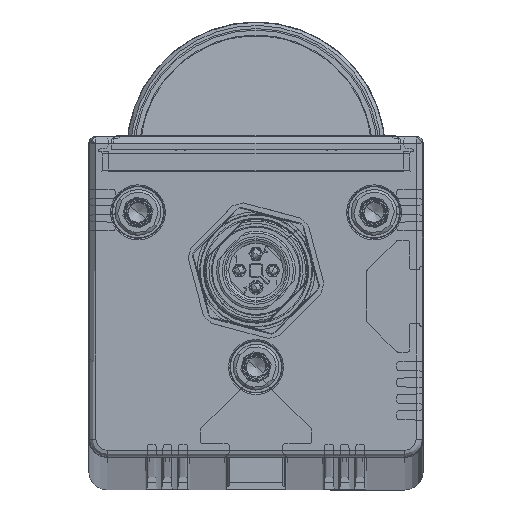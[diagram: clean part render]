
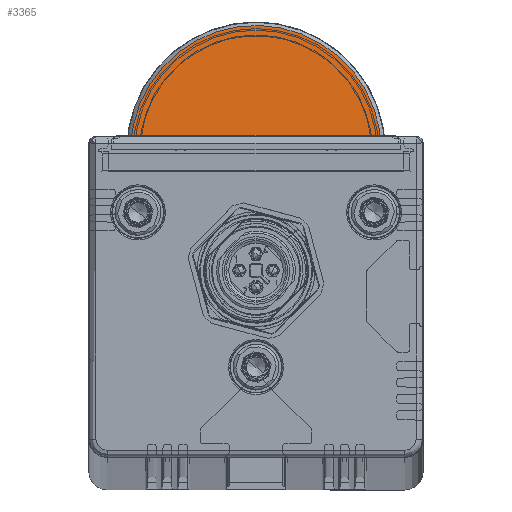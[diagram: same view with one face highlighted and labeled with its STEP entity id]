
A CAD part, top view. The second image highlights one B-rep face of the part: STEP entity #3365.
In plain terms, the highlighted planar face has unit normal (0, 0.087, 0.996).
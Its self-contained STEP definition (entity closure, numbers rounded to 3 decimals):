
#397 = CARTESIAN_POINT ( 'NONE',  ( 2.517, 20.743, -10.17 ) ) ;
#967 = CARTESIAN_POINT ( 'NONE',  ( -19.005, 4.075, -8.712 ) ) ;
#1240 = ORIENTED_EDGE ( 'NONE', *, *, #6237, .T. ) ;
#2686 = B_SPLINE_CURVE_WITH_KNOTS ( 'NONE', 3,
 ( #4053, #5088, #12013, #9141, #17353, #9247, #16087, #18932, #17893, #16198, #5849, #10295, #17243, #8601, #3936, #397, #21628, #18221, #4704, #6073, #7997, #4497, #2799, #14942, #18553, #21843, #16529, #14599, #4605, #9477, #13006, #967, #9699, #13221 ),
 .UNSPECIFIED., .F., .F.,
 ( 4, 2, 2, 2, 2, 2, 2, 2, 2, 2, 2, 2, 2, 2, 2, 2, 4 ),
 ( 0., 0.062, 0.125, 0.187, 0.25, 0.312, 0.375, 0.437, 0.5, 0.562, 0.625, 0.687, 0.75, 0.812, 0.875, 0.937, 1. ),
 .UNSPECIFIED. ) ;
#2799 = CARTESIAN_POINT ( 'NONE',  ( -9.634, 18.309, -9.957 ) ) ;
#3356 = FACE_OUTER_BOUND ( 'NONE', #15454, .T. ) ;
#3365 = ADVANCED_FACE ( 'NONE', ( #3356 ), #22273, .T. ) ;
#3936 = CARTESIAN_POINT ( 'NONE',  ( 4.988, 20.248, -10.127 ) ) ;
#4053 = CARTESIAN_POINT ( 'NONE',  ( 19.102, 1.555, -8.492 ) ) ;
#4497 = CARTESIAN_POINT ( 'NONE',  ( -8.521, 18.909, -10.01 ) ) ;
#4605 = CARTESIAN_POINT ( 'NONE',  ( -17.236, 10.097, -9.239 ) ) ;
#4704 = CARTESIAN_POINT ( 'NONE',  ( -2.518, 20.743, -10.17 ) ) ;
#5088 = CARTESIAN_POINT ( 'NONE',  ( 19.116, 2.815, -8.602 ) ) ;
#5849 = CARTESIAN_POINT ( 'NONE',  ( 11.723, 16.901, -9.834 ) ) ;
#6073 = CARTESIAN_POINT ( 'NONE',  ( -4.987, 20.248, -10.127 ) ) ;
#6136 = DIRECTION ( 'NONE',  ( 1., 0., 0. ) ) ;
#6237 = EDGE_CURVE ( 'NONE', #8810, #16196, #14665, .T. ) ;
#6956 = CARTESIAN_POINT ( 'NONE',  ( -23.75, 1.65, -8.5 ) ) ;
#7997 = CARTESIAN_POINT ( 'NONE',  ( -6.197, 19.879, -10.095 ) ) ;
#8601 = CARTESIAN_POINT ( 'NONE',  ( 6.196, 19.879, -10.095 ) ) ;
#8810 = VERTEX_POINT ( 'NONE', #8881 ) ;
#8881 = CARTESIAN_POINT ( 'NONE',  ( -19.102, 1.555, -8.492 ) ) ;
#9141 = CARTESIAN_POINT ( 'NONE',  ( 18.537, 6.55, -8.929 ) ) ;
#9247 = CARTESIAN_POINT ( 'NONE',  ( 17.236, 10.097, -9.239 ) ) ;
#9477 = CARTESIAN_POINT ( 'NONE',  ( -18.181, 7.763, -9.035 ) ) ;
#9663 = EDGE_CURVE ( 'NONE', #16196, #8810, #2686, .T. ) ;
#9699 = CARTESIAN_POINT ( 'NONE',  ( -19.116, 2.816, -8.602 ) ) ;
#10137 = DIRECTION ( 'NONE',  ( 0., -0.996, 0.087 ) ) ;
#10295 = CARTESIAN_POINT ( 'NONE',  ( 9.634, 18.309, -9.957 ) ) ;
#12013 = CARTESIAN_POINT ( 'NONE',  ( 19.005, 4.074, -8.712 ) ) ;
#13006 = CARTESIAN_POINT ( 'NONE',  ( -18.537, 6.549, -8.929 ) ) ;
#13221 = CARTESIAN_POINT ( 'NONE',  ( -19.102, 1.555, -8.492 ) ) ;
#13544 = CARTESIAN_POINT ( 'NONE',  ( 19.102, 1.555, -8.492 ) ) ;
#14599 = CARTESIAN_POINT ( 'NONE',  ( -16.649, 11.217, -9.337 ) ) ;
#14665 = LINE ( 'NONE', #21695, #17143 ) ;
#14942 = CARTESIAN_POINT ( 'NONE',  ( -11.723, 16.901, -9.834 ) ) ;
#15454 = EDGE_LOOP ( 'NONE', ( #1240, #15838 ) ) ;
#15495 = DIRECTION ( 'NONE',  ( 0., 0.087, 0.996 ) ) ;
#15838 = ORIENTED_EDGE ( 'NONE', *, *, #9663, .T. ) ;
#16087 = CARTESIAN_POINT ( 'NONE',  ( 16.648, 11.217, -9.337 ) ) ;
#16196 = VERTEX_POINT ( 'NONE', #13544 ) ;
#16198 = CARTESIAN_POINT ( 'NONE',  ( 12.696, 16.094, -9.764 ) ) ;
#16529 = CARTESIAN_POINT ( 'NONE',  ( -15.264, 13.321, -9.521 ) ) ;
#17143 = VECTOR ( 'NONE', #6136, 1000. ) ;
#17243 = CARTESIAN_POINT ( 'NONE',  ( 8.521, 18.908, -10.01 ) ) ;
#17353 = CARTESIAN_POINT ( 'NONE',  ( 18.181, 7.762, -9.035 ) ) ;
#17893 = CARTESIAN_POINT ( 'NONE',  ( 14.467, 14.303, -9.607 ) ) ;
#18221 = CARTESIAN_POINT ( 'NONE',  ( -1.259, 20.868, -10.181 ) ) ;
#18553 = CARTESIAN_POINT ( 'NONE',  ( -12.696, 16.094, -9.764 ) ) ;
#18932 = CARTESIAN_POINT ( 'NONE',  ( 15.264, 13.321, -9.521 ) ) ;
#19648 = AXIS2_PLACEMENT_3D ( 'NONE', #6956, #15495, #10137 ) ;
#21628 = CARTESIAN_POINT ( 'NONE',  ( 1.259, 20.868, -10.181 ) ) ;
#21695 = CARTESIAN_POINT ( 'NONE',  ( -23.75, 1.555, -8.492 ) ) ;
#21843 = CARTESIAN_POINT ( 'NONE',  ( -14.468, 14.303, -9.607 ) ) ;
#22273 = PLANE ( 'NONE',  #19648 ) ;
